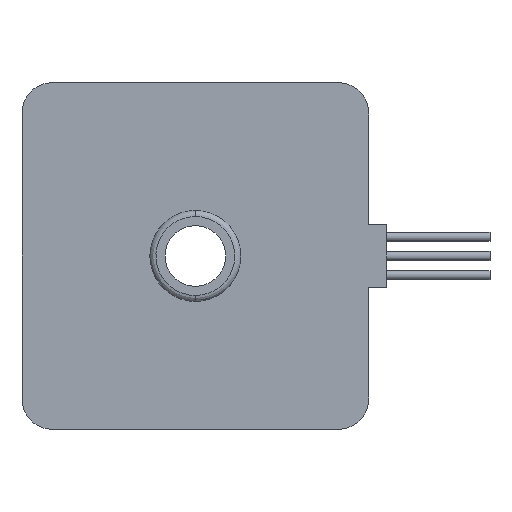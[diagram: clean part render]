
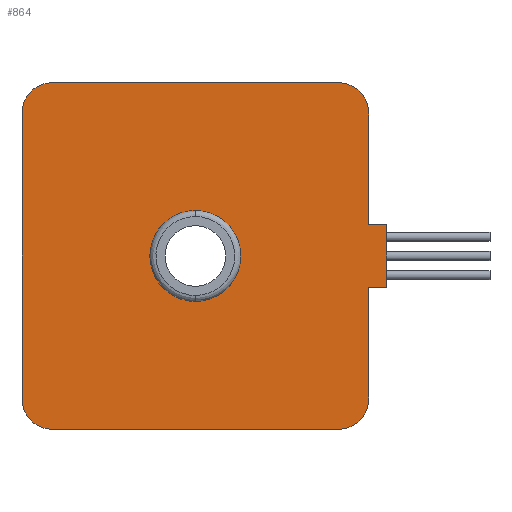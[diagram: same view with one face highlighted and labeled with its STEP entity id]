
A CAD part, front view. The second image highlights one B-rep face of the part: STEP entity #864.
In plain terms, the highlighted planar face has unit normal (0, -1, 0).
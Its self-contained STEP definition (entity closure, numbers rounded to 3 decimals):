
#47 = ORIENTED_EDGE ( 'NONE', *, *, #1629, .T. ) ;
#109 = EDGE_CURVE ( 'NONE', #3031, #1875, #2258, .T. ) ;
#127 = DIRECTION ( 'NONE',  ( 0., 1., 0. ) ) ;
#137 = DIRECTION ( 'NONE',  ( 0., 0., 1. ) ) ;
#144 = LINE ( 'NONE', #1657, #768 ) ;
#178 = CARTESIAN_POINT ( 'NONE',  ( -23.575, -46., 28.575 ) ) ;
#183 = CARTESIAN_POINT ( 'NONE',  ( 31.575, -46., -5.159 ) ) ;
#269 = ORIENTED_EDGE ( 'NONE', *, *, #690, .T. ) ;
#317 = EDGE_CURVE ( 'NONE', #2468, #1589, #2938, .T. ) ;
#325 = VERTEX_POINT ( 'NONE', #1437 ) ;
#328 = CARTESIAN_POINT ( 'NONE',  ( 28.575, -46., 28.575 ) ) ;
#344 = CIRCLE ( 'NONE', #1499, 7.5 ) ;
#370 = EDGE_CURVE ( 'NONE', #406, #911, #2732, .T. ) ;
#392 = DIRECTION ( 'NONE',  ( 0., 0., -1. ) ) ;
#406 = VERTEX_POINT ( 'NONE', #737 ) ;
#411 = VERTEX_POINT ( 'NONE', #3030 ) ;
#422 = VERTEX_POINT ( 'NONE', #2278 ) ;
#494 = EDGE_LOOP ( 'NONE', ( #1498, #727 ) ) ;
#530 = CARTESIAN_POINT ( 'NONE',  ( 28.575, -46., 28.575 ) ) ;
#559 = DIRECTION ( 'NONE',  ( 0., 0., 1. ) ) ;
#579 = VERTEX_POINT ( 'NONE', #2301 ) ;
#593 = AXIS2_PLACEMENT_3D ( 'NONE', #2667, #925, #2172 ) ;
#630 = LINE ( 'NONE', #328, #1755 ) ;
#647 = ORIENTED_EDGE ( 'NONE', *, *, #858, .F. ) ;
#687 = DIRECTION ( 'NONE',  ( 0., 0., -1. ) ) ;
#690 = EDGE_CURVE ( 'NONE', #3031, #1525, #1644, .T. ) ;
#713 = DIRECTION ( 'NONE',  ( -1., 0., 0. ) ) ;
#727 = ORIENTED_EDGE ( 'NONE', *, *, #2062, .F. ) ;
#737 = CARTESIAN_POINT ( 'NONE',  ( -28.575, -46., 23.575 ) ) ;
#768 = VECTOR ( 'NONE', #2443, 1000. ) ;
#776 = ORIENTED_EDGE ( 'NONE', *, *, #317, .T. ) ;
#790 = CARTESIAN_POINT ( 'NONE',  ( 28.575, -46., 5.159 ) ) ;
#823 = EDGE_CURVE ( 'NONE', #1589, #2536, #144, .T. ) ;
#827 = DIRECTION ( 'NONE',  ( 0., 0., 1. ) ) ;
#839 = VERTEX_POINT ( 'NONE', #1676 ) ;
#841 = EDGE_CURVE ( 'NONE', #854, #1525, #2614, .T. ) ;
#854 = VERTEX_POINT ( 'NONE', #1921 ) ;
#858 = EDGE_CURVE ( 'NONE', #2468, #839, #1296, .T. ) ;
#864 = ADVANCED_FACE ( 'NONE', ( #2496, #1952 ), #1686, .F. ) ;
#879 = VECTOR ( 'NONE', #1689, 1000. ) ;
#911 = VERTEX_POINT ( 'NONE', #178 ) ;
#925 = DIRECTION ( 'NONE',  ( 0., 1., 0. ) ) ;
#955 = ORIENTED_EDGE ( 'NONE', *, *, #841, .F. ) ;
#970 = DIRECTION ( 'NONE',  ( 0., 1., 0. ) ) ;
#1143 = ORIENTED_EDGE ( 'NONE', *, *, #109, .F. ) ;
#1179 = CARTESIAN_POINT ( 'NONE',  ( 23.575, -46., -23.575 ) ) ;
#1191 = ORIENTED_EDGE ( 'NONE', *, *, #3056, .T. ) ;
#1259 = DIRECTION ( 'NONE',  ( 0., 1., 0. ) ) ;
#1260 = ORIENTED_EDGE ( 'NONE', *, *, #823, .T. ) ;
#1269 = ORIENTED_EDGE ( 'NONE', *, *, #370, .F. ) ;
#1296 = LINE ( 'NONE', #2935, #1479 ) ;
#1417 = AXIS2_PLACEMENT_3D ( 'NONE', #1179, #127, #137 ) ;
#1437 = CARTESIAN_POINT ( 'NONE',  ( 0., -46., -7.5 ) ) ;
#1477 = DIRECTION ( 'NONE',  ( 0., -1., 0. ) ) ;
#1479 = VECTOR ( 'NONE', #392, 1000. ) ;
#1498 = ORIENTED_EDGE ( 'NONE', *, *, #2434, .F. ) ;
#1499 = AXIS2_PLACEMENT_3D ( 'NONE', #2613, #2875, #1893 ) ;
#1525 = VERTEX_POINT ( 'NONE', #3258 ) ;
#1589 = VERTEX_POINT ( 'NONE', #790 ) ;
#1617 = EDGE_LOOP ( 'NONE', ( #1143, #269, #955, #47, #2368, #647, #776, #1260, #1660, #3297, #1269, #1191 ) ) ;
#1627 = DIRECTION ( 'NONE',  ( 1., 0., 0. ) ) ;
#1629 = EDGE_CURVE ( 'NONE', #854, #579, #1944, .T. ) ;
#1631 = DIRECTION ( 'NONE',  ( -1., 0., 0. ) ) ;
#1644 = LINE ( 'NONE', #3134, #3239 ) ;
#1657 = CARTESIAN_POINT ( 'NONE',  ( 28.575, -46., 28.575 ) ) ;
#1660 = ORIENTED_EDGE ( 'NONE', *, *, #1888, .F. ) ;
#1674 = AXIS2_PLACEMENT_3D ( 'NONE', #2749, #1259, #1990 ) ;
#1676 = CARTESIAN_POINT ( 'NONE',  ( 31.575, -46., -5.159 ) ) ;
#1686 = PLANE ( 'NONE',  #593 ) ;
#1689 = DIRECTION ( 'NONE',  ( 0., 0., -1. ) ) ;
#1725 = CARTESIAN_POINT ( 'NONE',  ( -23.575, -46., 23.575 ) ) ;
#1745 = CARTESIAN_POINT ( 'NONE',  ( 0., -46., 0. ) ) ;
#1755 = VECTOR ( 'NONE', #1631, 1000. ) ;
#1875 = VERTEX_POINT ( 'NONE', #3003 ) ;
#1888 = EDGE_CURVE ( 'NONE', #411, #2536, #2890, .T. ) ;
#1893 = DIRECTION ( 'NONE',  ( 0., 0., -1. ) ) ;
#1921 = CARTESIAN_POINT ( 'NONE',  ( 28.575, -46., -23.575 ) ) ;
#1944 = LINE ( 'NONE', #530, #3093 ) ;
#1952 = FACE_BOUND ( 'NONE', #494, .T. ) ;
#1990 = DIRECTION ( 'NONE',  ( 0., 0., 1. ) ) ;
#2062 = EDGE_CURVE ( 'NONE', #422, #325, #344, .T. ) ;
#2076 = EDGE_CURVE ( 'NONE', #411, #911, #630, .T. ) ;
#2080 = AXIS2_PLACEMENT_3D ( 'NONE', #1745, #1477, #687 ) ;
#2172 = DIRECTION ( 'NONE',  ( 0., 0., 1. ) ) ;
#2176 = DIRECTION ( 'NONE',  ( -1., 0., 0. ) ) ;
#2186 = CARTESIAN_POINT ( 'NONE',  ( 31.575, -46., 5.159 ) ) ;
#2201 = LINE ( 'NONE', #183, #2292 ) ;
#2258 = CIRCLE ( 'NONE', #2260, 5. ) ;
#2260 = AXIS2_PLACEMENT_3D ( 'NONE', #2884, #3089, #559 ) ;
#2278 = CARTESIAN_POINT ( 'NONE',  ( 0., -46., 7.5 ) ) ;
#2292 = VECTOR ( 'NONE', #713, 1000. ) ;
#2301 = CARTESIAN_POINT ( 'NONE',  ( 28.575, -46., -5.159 ) ) ;
#2368 = ORIENTED_EDGE ( 'NONE', *, *, #2535, .F. ) ;
#2434 = EDGE_CURVE ( 'NONE', #325, #422, #2805, .T. ) ;
#2443 = DIRECTION ( 'NONE',  ( 0., 0., 1. ) ) ;
#2468 = VERTEX_POINT ( 'NONE', #3208 ) ;
#2496 = FACE_OUTER_BOUND ( 'NONE', #1617, .T. ) ;
#2499 = AXIS2_PLACEMENT_3D ( 'NONE', #1725, #970, #2719 ) ;
#2535 = EDGE_CURVE ( 'NONE', #839, #579, #2201, .T. ) ;
#2536 = VERTEX_POINT ( 'NONE', #2720 ) ;
#2613 = CARTESIAN_POINT ( 'NONE',  ( 0., -46., 0. ) ) ;
#2614 = CIRCLE ( 'NONE', #1417, 5. ) ;
#2657 = VECTOR ( 'NONE', #2176, 1000. ) ;
#2667 = CARTESIAN_POINT ( 'NONE',  ( 0., -46., 0. ) ) ;
#2719 = DIRECTION ( 'NONE',  ( 0., 0., 1. ) ) ;
#2720 = CARTESIAN_POINT ( 'NONE',  ( 28.575, -46., 23.575 ) ) ;
#2732 = CIRCLE ( 'NONE', #2499, 5. ) ;
#2749 = CARTESIAN_POINT ( 'NONE',  ( 23.575, -46., 23.575 ) ) ;
#2805 = CIRCLE ( 'NONE', #2080, 7.5 ) ;
#2875 = DIRECTION ( 'NONE',  ( 0., -1., 0. ) ) ;
#2884 = CARTESIAN_POINT ( 'NONE',  ( -23.575, -46., -23.575 ) ) ;
#2890 = CIRCLE ( 'NONE', #1674, 5. ) ;
#2928 = CARTESIAN_POINT ( 'NONE',  ( -28.575, -46., 28.575 ) ) ;
#2935 = CARTESIAN_POINT ( 'NONE',  ( 31.575, -46., 5.159 ) ) ;
#2938 = LINE ( 'NONE', #2186, #2657 ) ;
#2969 = LINE ( 'NONE', #2928, #879 ) ;
#3003 = CARTESIAN_POINT ( 'NONE',  ( -28.575, -46., -23.575 ) ) ;
#3030 = CARTESIAN_POINT ( 'NONE',  ( 23.575, -46., 28.575 ) ) ;
#3031 = VERTEX_POINT ( 'NONE', #3157 ) ;
#3056 = EDGE_CURVE ( 'NONE', #406, #1875, #2969, .T. ) ;
#3089 = DIRECTION ( 'NONE',  ( 0., 1., 0. ) ) ;
#3093 = VECTOR ( 'NONE', #827, 1000. ) ;
#3134 = CARTESIAN_POINT ( 'NONE',  ( 28.575, -46., -28.575 ) ) ;
#3157 = CARTESIAN_POINT ( 'NONE',  ( -23.575, -46., -28.575 ) ) ;
#3208 = CARTESIAN_POINT ( 'NONE',  ( 31.575, -46., 5.159 ) ) ;
#3239 = VECTOR ( 'NONE', #1627, 1000. ) ;
#3258 = CARTESIAN_POINT ( 'NONE',  ( 23.575, -46., -28.575 ) ) ;
#3297 = ORIENTED_EDGE ( 'NONE', *, *, #2076, .T. ) ;
